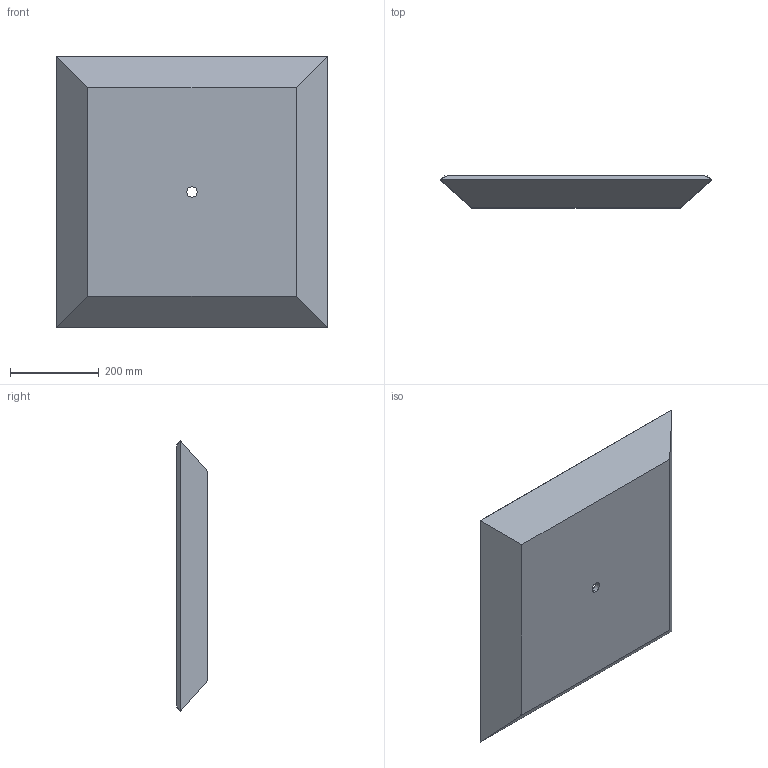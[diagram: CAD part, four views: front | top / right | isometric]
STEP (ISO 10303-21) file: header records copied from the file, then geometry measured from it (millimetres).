
FILE_DESCRIPTION (( 'STEP AP214' ), '1' );
FILE_NAME ('Spot Focus - Single - 3 In Deep Assembly - V5.STEP', '2022-08-02T15:29:07', ( '' ), ( '' ), 'SwSTEP 2.0', 'SolidWorks 2020', '' );
FILE_SCHEMA (( 'AUTOMOTIVE_DESIGN' ));
Length unit declared in the file: inch
Products named in the file (3): 3 In Deep Extruded Tile Side - V5; Spot Focus - Single - 3 In Deep Top - V5; Spot Focus - Single - 3 In Deep Assembly - V5
Assembly tree (5 placements, depth 2):
  Spot Focus - Single - 3 In Deep Assembly - V5
    Spot Focus - Single - 3 In Deep Top - V5
    3 In Deep Extruded Tile Side - V5  x4
Bounding box: 609.6 x 71.4 x 609.6 mm (x, y, z)
Volume: 4763293.1 mm3; surface area: 897553.3 mm2
Topology: 5 solids, 5 shells, 32 faces, 66 edges, 44 vertices
Faces by surface type: plane 30, cylinder 2
Entity records: 530 total; most frequent: DIRECTION 78, CARTESIAN_POINT 72, ORIENTED_EDGE 60, EDGE_CURVE 30, LINE 26, VECTOR 26, AXIS2_PLACEMENT_3D 26, VERTEX_POINT 20
